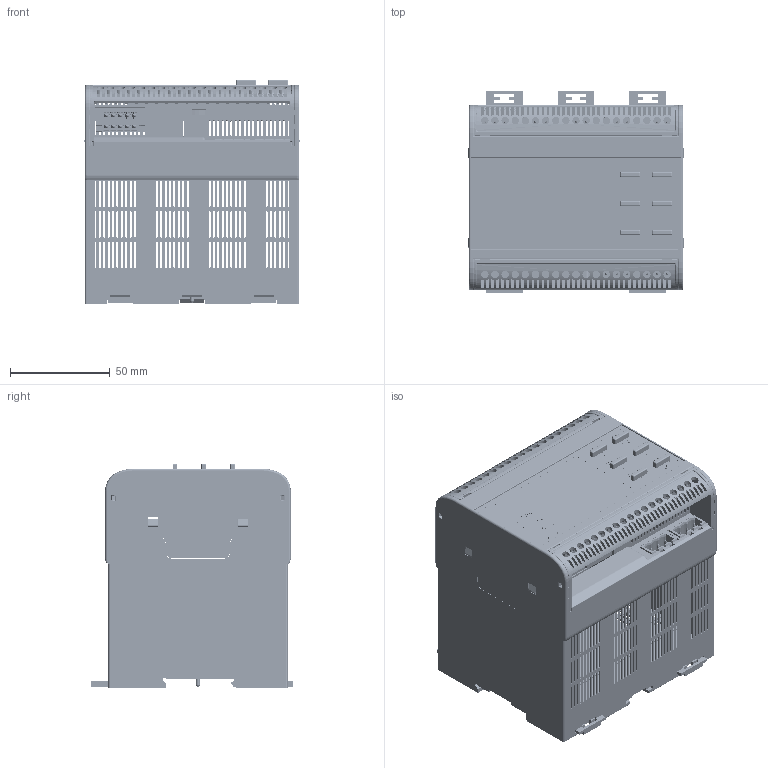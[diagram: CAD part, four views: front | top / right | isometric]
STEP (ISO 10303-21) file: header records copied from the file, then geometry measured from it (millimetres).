
FILE_DESCRIPTION (( 'STEP AP214' ), '1' );
FILE_NAME ('iso685-D.STEP', '2020-09-08T10:42:41', ( '' ), ( '' ), 'SwSTEP 2.0', 'SolidWorks 2020', '' );
FILE_SCHEMA (( 'AUTOMOTIVE_DESIGN' ));
Length unit declared in the file: millimetre
Products named in the file (1): iso685-D
Bounding box: 108 x 101.35 x 112.55 mm (x, y, z)
Volume: 77865.1 mm3; surface area: 173304 mm2
Topology: 106 solids, 106 shells, 6639 faces, 19011 edges, 12470 vertices
Faces by surface type: plane 4040, cylinder 1900, bspline 474, cone 140, torus 60, sphere 25
Entity records: 297859 total; most frequent: CARTESIAN_POINT 54940, ORIENTED_EDGE 37894, DIRECTION 31125, EDGE_CURVE 18947, LINE 13187, VECTOR 13187, VERTEX_POINT 12470, AXIS2_PLACEMENT_3D 8969
